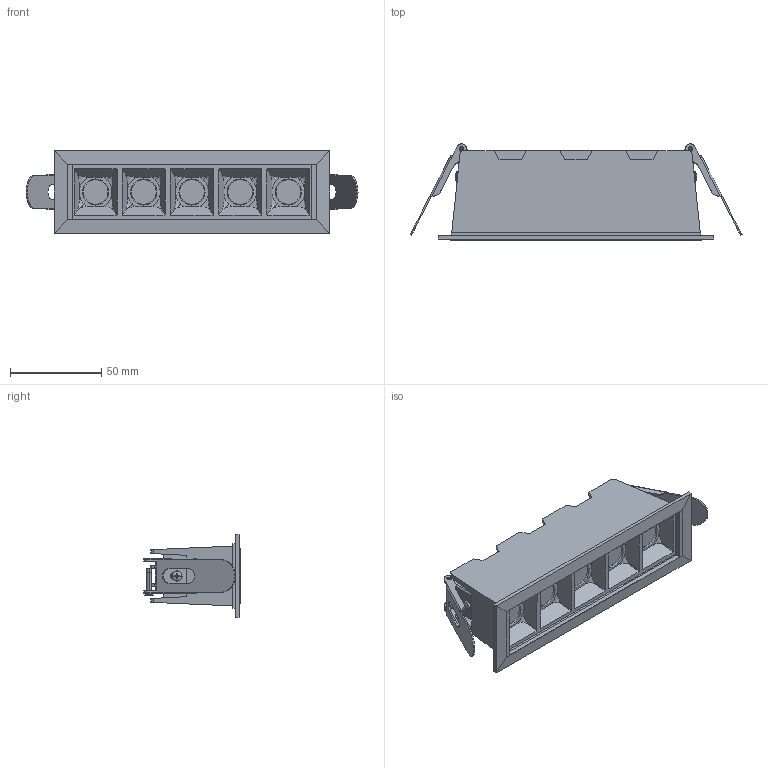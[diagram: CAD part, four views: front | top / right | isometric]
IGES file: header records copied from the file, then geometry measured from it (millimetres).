
Start section: SolidWorks IGES file using analytic representation for surfaces
Global section: file name: P:\Tecnico\Progettazione\Marketing\Sito web\Sito 2024 [BCPT]\Sito 2024 - Allegati\Modelli 3D-2D\# Lavorazione\COMPLETO\Rally trim\XR178__.014.____.IGS; native system: SolidWorks 2024; preprocessor: SolidWorks 2024; author: panzeri46; date: 250530.141530; units: millimetre
Bounding box: 181.89 x 52.65 x 45 mm (x, y, z)
Volume: 89381.9 mm3; surface area: 91189.3 mm2
Topology: 20 solids, 20 shells, 1707 faces, 4564 edges, 2888 vertices
Faces by surface type: plane 950, revolution 686, bspline 71
